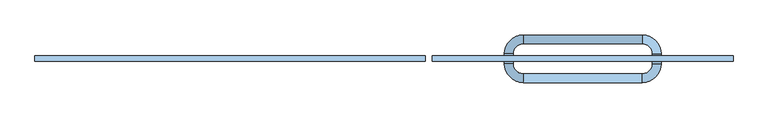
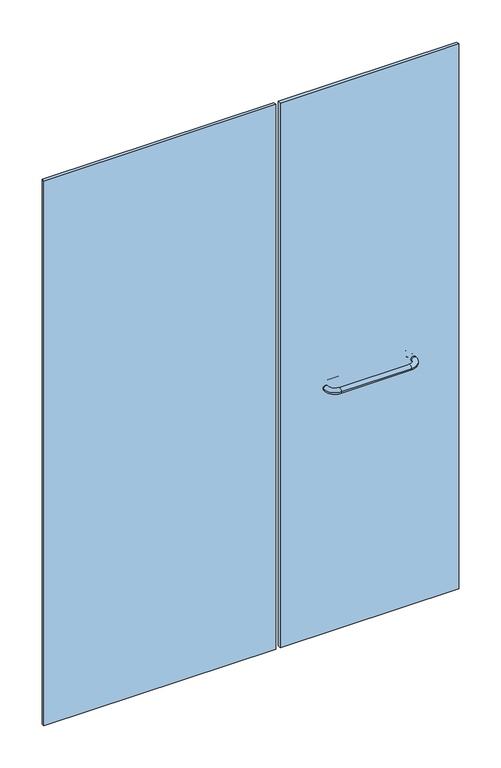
"""IFC4 building model written with IfcOpenShell, lengths in millimetres: window geometry, Baño 1 Puerta lateral - toallero simple : CA01-cancel baño-1.455."""

from ifc_helpers import new_model, si_unit, point, frame, origin, origin_with_axes, place, context, project, spatial, polyline, circle_curve, ellipse_curve, trimmed, outline, extrude, source, transform, mapped, element, save
from ifc_brep_helpers import cylinder_surface, revolved_surface, advanced_brep


def window_f2be9482(model_context):
    return source(origin(), model_context, "Body", "SolidModel", [
        extrude(outline(polyline([(92.5, 5.5), (712.5, 5.5), (712.5, -5.5), (92.5, -5.5), (92.5, 5.5)])), origin_with_axes(), (0.0, 0.0, 1.0), 2000.0),
        extrude(outline(polyline([(-727.5, 5.5), (77.5, 5.5), (77.5, -5.5), (-727.5, -5.5), (-727.5, 5.5)])), origin_with_axes(), (0.0, 0.0, 1.0), 2000.0),
        advanced_brep(
        [(241.0, -10.0, 900.0), (259.0, -10.0, 900.0), (280.0, -31.0, 900.0), (280.0, -49.0, 900.0), (241.0, 10.0, 900.0), (259.0, 10.0, 900.0), (280.0, 49.0, 900.0), (280.0, 31.0, 900.0), (525.0, 49.0, 900.0), (525.0, 31.0, 900.0), (564.0, 10.0, 900.0), (546.0, 10.0, 900.0), (564.0, -10.0, 900.0), (546.0, -10.0, 900.0), (525.0, -49.0, 900.0), (525.0, -31.0, 900.0)],
        [
            (0, 1, circle_curve(frame((250.0, -10.0, 900.0), z_axis=(0.0, -1.0, 0.0), x_axis=(1.0, 0.0, 0.0)), 9.0)),
            (1, 2, circle_curve(frame((280.0, -10.0, 900.0), z_axis=(0.0, 0.0, 1.0), x_axis=(0.0, -1.0, 0.0)), 21.0)),
            (2, 3, circle_curve(frame((280.0, -40.0, 900.0), z_axis=(-1.0, 0.0, 0.0), x_axis=(0.0, 1.0, 0.0)), 9.0)),
            (3, 0, circle_curve(frame((280.0, -10.0, 900.0), z_axis=(0.0, 0.0, -1.0), x_axis=(0.0, -1.0, 0.0)), 39.0)),
            (1, 0, circle_curve(frame((250.0, -10.0, 900.0), z_axis=(0.0, -1.0, 0.0), x_axis=(1.0, 0.0, 0.0)), 9.0)),
            (3, 2, circle_curve(frame((280.0, -40.0, 900.0), z_axis=(-1.0, 0.0, 0.0), x_axis=(0.0, 1.0, 0.0)), 9.0)),
            (0, 4),
            (4, 5, circle_curve(frame((250.0, 10.0, 900.0), z_axis=(0.0, -1.0, 0.0), x_axis=(1.0, 0.0, 0.0)), 9.0)),
            (5, 1),
            (5, 4, circle_curve(frame((250.0, 10.0, 900.0), z_axis=(0.0, -1.0, 0.0), x_axis=(1.0, 0.0, 0.0)), 9.0)),
            (6, 7, circle_curve(frame((280.0, 40.0, 900.0), z_axis=(-1.0, 0.0, 0.0), x_axis=(0.0, -1.0, 0.0)), 9.0)),
            (7, 5, circle_curve(frame((280.0, 10.0, 900.0), z_axis=(0.0, 0.0, 1.0), x_axis=(-1.0, 0.0, 0.0)), 21.0)),
            (4, 6, circle_curve(frame((280.0, 10.0, 900.0), z_axis=(0.0, 0.0, -1.0), x_axis=(-1.0, 0.0, 0.0)), 39.0)),
            (7, 6, circle_curve(frame((280.0, 40.0, 900.0), z_axis=(-1.0, 0.0, 0.0), x_axis=(0.0, -1.0, 0.0)), 9.0)),
            (6, 8),
            (8, 9, circle_curve(frame((525.0, 40.0, 900.0), z_axis=(-1.0, 0.0, 0.0), x_axis=(0.0, -1.0, 0.0)), 9.0)),
            (9, 7),
            (9, 8, circle_curve(frame((525.0, 40.0, 900.0), z_axis=(-1.0, 0.0, 0.0), x_axis=(0.0, -1.0, 0.0)), 9.0)),
            (10, 11, circle_curve(frame((555.0, 10.0, 900.0), z_axis=(0.0, 1.0, 0.0), x_axis=(-1.0, 0.0, 0.0)), 9.0)),
            (11, 9, circle_curve(frame((525.0, 10.0, 900.0), z_axis=(0.0, 0.0, 1.0), x_axis=(0.0, 1.0, 0.0)), 21.0)),
            (8, 10, circle_curve(frame((525.0, 10.0, 900.0), z_axis=(0.0, 0.0, -1.0), x_axis=(0.0, 1.0, 0.0)), 39.0)),
            (11, 10, circle_curve(frame((555.0, 10.0, 900.0), z_axis=(0.0, 1.0, 0.0), x_axis=(-1.0, 0.0, 0.0)), 9.0)),
            (10, 12),
            (12, 13, circle_curve(frame((555.0, -10.0, 900.0), z_axis=(0.0, 1.0, 0.0), x_axis=(-1.0, 0.0, 0.0)), 9.0)),
            (13, 11),
            (13, 12, circle_curve(frame((555.0, -10.0, 900.0), z_axis=(0.0, 1.0, 0.0), x_axis=(-1.0, 0.0, 0.0)), 9.0)),
            (14, 15, circle_curve(frame((525.0, -40.0, 900.0), z_axis=(1.0, 0.0, 0.0), x_axis=(0.0, 1.0, 0.0)), 9.0)),
            (15, 13, circle_curve(frame((525.0, -10.0, 900.0), z_axis=(0.0, 0.0, 1.0), x_axis=(1.0, 0.0, 0.0)), 21.0)),
            (12, 14, circle_curve(frame((525.0, -10.0, 900.0), z_axis=(0.0, 0.0, -1.0), x_axis=(1.0, 0.0, 0.0)), 39.0)),
            (15, 14, circle_curve(frame((525.0, -40.0, 900.0), z_axis=(1.0, 0.0, 0.0), x_axis=(0.0, 1.0, 0.0)), 9.0)),
            (14, 3),
            (2, 15),
        ],
        [
            revolved_surface(trimmed(ellipse_curve(frame((280.0, -40.0, 900.0), z_axis=(-1.0, 0.0, 0.0), x_axis=(0.0, 1.0, 0.0)), 9.0, 9.0), [point((280.0, -31.0, 900.0))], [point((280.0, -49.0, 900.0))], True, "CARTESIAN"), (280.0, -10.0, 0.0), (0.0, 0.0, 1.0)),
            revolved_surface(trimmed(ellipse_curve(frame((280.0, -40.0, 900.0), z_axis=(-1.0, 0.0, 0.0), x_axis=(0.0, 1.0, 0.0)), 9.0, 9.0), [point((280.0, -49.0, 900.0))], [point((280.0, -31.0, 900.0))], True, "CARTESIAN"), (280.0, -10.0, 0.0), (0.0, 0.0, 1.0)),
            cylinder_surface(frame((250.0, -10.0, 900.0), z_axis=(0.0, -1.0, 0.0), x_axis=(1.0, 0.0, 0.0)), 9.0),
            revolved_surface(trimmed(ellipse_curve(frame((250.0, 10.0, 900.0), z_axis=(0.0, 1.0, 0.0), x_axis=(1.0, 0.0, 0.0)), 9.0, 9.0), [point((259.0, 10.0, 900.0))], [point((241.0, 10.0, 900.0))], True, "CARTESIAN"), (280.0, 10.0, 0.0), (0.0, 0.0, 1.0)),
            revolved_surface(trimmed(ellipse_curve(frame((250.0, 10.0, 900.0), z_axis=(0.0, 1.0, 0.0), x_axis=(1.0, 0.0, 0.0)), 9.0, 9.0), [point((241.0, 10.0, 900.0))], [point((259.0, 10.0, 900.0))], True, "CARTESIAN"), (280.0, 10.0, 0.0), (0.0, 0.0, 1.0)),
            cylinder_surface(frame((280.0, 40.0, 900.0), z_axis=(-1.0, 0.0, 0.0), x_axis=(0.0, -1.0, 0.0)), 9.0),
            revolved_surface(trimmed(ellipse_curve(frame((525.0, 40.0, 900.0), z_axis=(1.0, 0.0, 0.0), x_axis=(0.0, -1.0, 0.0)), 9.0, 9.0), [point((525.0, 31.0, 900.0))], [point((525.0, 49.0, 900.0))], True, "CARTESIAN"), (525.0, 10.0, 0.0), (0.0, 0.0, 1.0)),
            revolved_surface(trimmed(ellipse_curve(frame((525.0, 40.0, 900.0), z_axis=(1.0, 0.0, 0.0), x_axis=(0.0, -1.0, 0.0)), 9.0, 9.0), [point((525.0, 49.0, 900.0))], [point((525.0, 31.0, 900.0))], True, "CARTESIAN"), (525.0, 10.0, 0.0), (0.0, 0.0, 1.0)),
            cylinder_surface(frame((555.0, 10.0, 900.0), z_axis=(0.0, 1.0, 0.0), x_axis=(-1.0, 0.0, 0.0)), 9.0),
            revolved_surface(trimmed(ellipse_curve(frame((555.0, -10.0, 900.0), z_axis=(0.0, -1.0, 0.0), x_axis=(-1.0, 0.0, 0.0)), 9.0, 9.0), [point((546.0, -10.0, 900.0))], [point((564.0, -10.0, 900.0))], True, "CARTESIAN"), (525.0, -10.0, 0.0), (0.0, 0.0, 1.0)),
            revolved_surface(trimmed(ellipse_curve(frame((555.0, -10.0, 900.0), z_axis=(0.0, -1.0, 0.0), x_axis=(-1.0, 0.0, 0.0)), 9.0, 9.0), [point((564.0, -10.0, 900.0))], [point((546.0, -10.0, 900.0))], True, "CARTESIAN"), (525.0, -10.0, 0.0), (0.0, 0.0, 1.0)),
            cylinder_surface(frame((525.0, -40.0, 900.0), z_axis=(1.0, 0.0, 0.0), x_axis=(0.0, 1.0, 0.0)), 9.0),
        ],
        [
            (0, [[1, 2, 3, 4]]),
            (1, [[5, -4, 6, -2]]),
            (2, [[7, 8, 9, -1]]),
            (2, [[-9, 10, -7, -5]]),
            (3, [[11, 12, -8, 13]]),
            (4, [[14, -13, -10, -12]]),
            (5, [[15, 16, 17, -11]]),
            (5, [[-17, 18, -15, -14]]),
            (6, [[19, 20, -16, 21]]),
            (7, [[22, -21, -18, -20]]),
            (8, [[23, 24, 25, -19]]),
            (8, [[-25, 26, -23, -22]]),
            (9, [[27, 28, -24, 29]]),
            (10, [[30, -29, -26, -28]]),
            (11, [[31, -3, 32, -27]]),
            (11, [[-32, -6, -31, -30]]),
        ],
    ),
    ])


if __name__ == "__main__":
    model = new_model("IFC4")
    model_context = context("Model", 3, world=origin())
    ifc_project = project(units=[si_unit("LENGTHUNIT", "METRE", prefix="MILLI")], contexts=[model_context])
    site = spatial("IfcSite", under=ifc_project)
    building = spatial("IfcBuilding", under=site)
    placement = place(None, origin())
    window_shape = window_f2be9482(model_context)
    element("IfcWindow", 1, ObjectType="Baño 1 Puerta lateral - toallero simple : CA01-cancel baño-1.455", at=placement, inside=building, context=model_context, shape_type="MappedRepresentation", body=[
        mapped(window_shape, transform((0.0, 0.0, 0.0), x_axis=(1.0, 0.0, 0.0), y_axis=(0.0, 1.0, 0.0), z_axis=(0.0, 0.0, 1.0))),
    ])
    save(model, "model.ifc")
